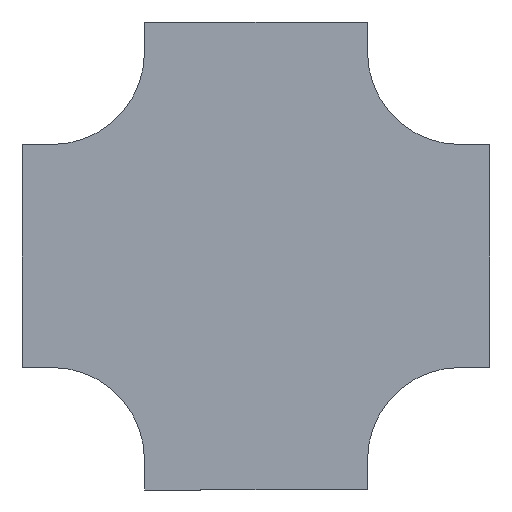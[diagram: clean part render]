
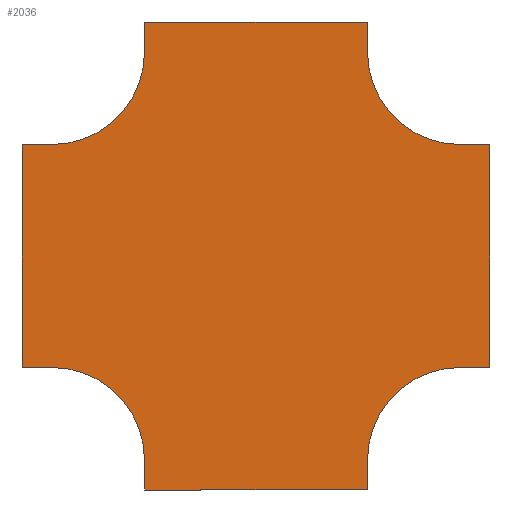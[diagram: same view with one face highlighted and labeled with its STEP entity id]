
A CAD part, front view. The second image highlights one B-rep face of the part: STEP entity #2036.
In plain terms, the highlighted planar face has unit normal (0, -1, 0).
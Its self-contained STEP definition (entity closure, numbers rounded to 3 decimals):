
#6 = DIRECTION ( 'NONE',  ( -1., 0., 0. ) ) ;
#7 = VERTEX_POINT ( 'NONE', #1434 ) ;
#14 = CARTESIAN_POINT ( 'NONE',  ( 0., 0., -125. ) ) ;
#48 = EDGE_CURVE ( 'NONE', #7, #259, #1008, .T. ) ;
#64 = VECTOR ( 'NONE', #6, 1000. ) ;
#69 = DIRECTION ( 'NONE',  ( 0., 0., 1. ) ) ;
#80 = VECTOR ( 'NONE', #1283, 1000. ) ;
#103 = CARTESIAN_POINT ( 'NONE',  ( 40., 0., -125. ) ) ;
#108 = DIRECTION ( 'NONE',  ( 0., 0., -1. ) ) ;
#133 = CARTESIAN_POINT ( 'NONE',  ( 40., 0., -125. ) ) ;
#135 = VECTOR ( 'NONE', #1195, 1000. ) ;
#136 = DIRECTION ( 'NONE',  ( 0., 0., 1. ) ) ;
#215 = LINE ( 'NONE', #14, #2685 ) ;
#238 = ORIENTED_EDGE ( 'NONE', *, *, #1250, .F. ) ;
#249 = EDGE_CURVE ( 'NONE', #996, #1879, #256, .T. ) ;
#256 = LINE ( 'NONE', #719, #135 ) ;
#258 = CARTESIAN_POINT ( 'NONE',  ( -550., 0., -550. ) ) ;
#259 = VERTEX_POINT ( 'NONE', #705 ) ;
#309 = LINE ( 'NONE', #2324, #3265 ) ;
#328 = CARTESIAN_POINT ( 'NONE',  ( -125., 0., -590. ) ) ;
#383 = LINE ( 'NONE', #1393, #3167 ) ;
#439 = VECTOR ( 'NONE', #1981, 1000. ) ;
#468 = LINE ( 'NONE', #3234, #3000 ) ;
#490 = CIRCLE ( 'NONE', #3100, 125. ) ;
#582 = DIRECTION ( 'NONE',  ( 0., 0., -1. ) ) ;
#630 = VERTEX_POINT ( 'NONE', #944 ) ;
#705 = CARTESIAN_POINT ( 'NONE',  ( -550., 0., -125. ) ) ;
#719 = CARTESIAN_POINT ( 'NONE',  ( -425., 0., 40. ) ) ;
#728 = ORIENTED_EDGE ( 'NONE', *, *, #1884, .F. ) ;
#751 = AXIS2_PLACEMENT_3D ( 'NONE', #258, #1502, #1248 ) ;
#894 = EDGE_CURVE ( 'NONE', #1168, #630, #1676, .T. ) ;
#904 = DIRECTION ( 'NONE',  ( -1., 0., 0. ) ) ;
#910 = VERTEX_POINT ( 'NONE', #2331 ) ;
#944 = CARTESIAN_POINT ( 'NONE',  ( -125., 0., -550. ) ) ;
#949 = CARTESIAN_POINT ( 'NONE',  ( 40., 0., -425. ) ) ;
#953 = DIRECTION ( 'NONE',  ( -1., 0., 0. ) ) ;
#954 = VERTEX_POINT ( 'NONE', #3098 ) ;
#959 = CIRCLE ( 'NONE', #751, 125. ) ;
#996 = VERTEX_POINT ( 'NONE', #1834 ) ;
#1008 = LINE ( 'NONE', #1511, #80 ) ;
#1029 = ORIENTED_EDGE ( 'NONE', *, *, #1239, .F. ) ;
#1116 = VERTEX_POINT ( 'NONE', #2966 ) ;
#1124 = VERTEX_POINT ( 'NONE', #3213 ) ;
#1139 = ORIENTED_EDGE ( 'NONE', *, *, #2287, .F. ) ;
#1145 = LINE ( 'NONE', #103, #2300 ) ;
#1166 = ORIENTED_EDGE ( 'NONE', *, *, #2634, .F. ) ;
#1168 = VERTEX_POINT ( 'NONE', #3046 ) ;
#1175 = CIRCLE ( 'NONE', #2034, 125. ) ;
#1195 = DIRECTION ( 'NONE',  ( 0., 0., 1. ) ) ;
#1239 = EDGE_CURVE ( 'NONE', #1124, #2193, #959, .T. ) ;
#1248 = DIRECTION ( 'NONE',  ( 0., 0., -1. ) ) ;
#1250 = EDGE_CURVE ( 'NONE', #1636, #1168, #2272, .T. ) ;
#1283 = DIRECTION ( 'NONE',  ( 1., 0., 0. ) ) ;
#1286 = DIRECTION ( 'NONE',  ( 1., 0., 0. ) ) ;
#1309 = EDGE_CURVE ( 'NONE', #1116, #3261, #490, .T. ) ;
#1393 = CARTESIAN_POINT ( 'NONE',  ( -425., 0., -590. ) ) ;
#1434 = CARTESIAN_POINT ( 'NONE',  ( -590., 0., -125. ) ) ;
#1443 = LINE ( 'NONE', #2217, #2469 ) ;
#1501 = AXIS2_PLACEMENT_3D ( 'NONE', #2872, #2838, #2113 ) ;
#1502 = DIRECTION ( 'NONE',  ( 0., -1., 0. ) ) ;
#1511 = CARTESIAN_POINT ( 'NONE',  ( -550., 0., -125. ) ) ;
#1564 = ORIENTED_EDGE ( 'NONE', *, *, #48, .F. ) ;
#1604 = EDGE_CURVE ( 'NONE', #1879, #3065, #2219, .T. ) ;
#1624 = CARTESIAN_POINT ( 'NONE',  ( 0., 0., 0. ) ) ;
#1628 = DIRECTION ( 'NONE',  ( 0., 0., 1. ) ) ;
#1636 = VERTEX_POINT ( 'NONE', #949 ) ;
#1676 = CIRCLE ( 'NONE', #2106, 125. ) ;
#1689 = ORIENTED_EDGE ( 'NONE', *, *, #1309, .F. ) ;
#1819 = EDGE_CURVE ( 'NONE', #3190, #1636, #1145, .T. ) ;
#1834 = CARTESIAN_POINT ( 'NONE',  ( -425., 0., 0. ) ) ;
#1866 = CARTESIAN_POINT ( 'NONE',  ( 0., 0., -550. ) ) ;
#1873 = CARTESIAN_POINT ( 'NONE',  ( -125., 0., 40. ) ) ;
#1879 = VERTEX_POINT ( 'NONE', #1907 ) ;
#1884 = EDGE_CURVE ( 'NONE', #910, #1124, #2420, .T. ) ;
#1907 = CARTESIAN_POINT ( 'NONE',  ( -425., 0., 40. ) ) ;
#1981 = DIRECTION ( 'NONE',  ( 1., 0., 0. ) ) ;
#1986 = EDGE_CURVE ( 'NONE', #3065, #1116, #468, .T. ) ;
#1995 = EDGE_LOOP ( 'NONE', ( #2858, #3214, #1139, #1564, #2097, #2551, #1029, #728, #2800, #1166, #2565, #238, #2895, #2436, #1689, #3070 ) ) ;
#2003 = EDGE_CURVE ( 'NONE', #3261, #3190, #215, .T. ) ;
#2034 = AXIS2_PLACEMENT_3D ( 'NONE', #2337, #2861, #2577 ) ;
#2036 = ADVANCED_FACE ( 'NONE', ( #2297 ), #2808, .T. ) ;
#2097 = ORIENTED_EDGE ( 'NONE', *, *, #2282, .F. ) ;
#2106 = AXIS2_PLACEMENT_3D ( 'NONE', #1866, #2124, #1628 ) ;
#2113 = DIRECTION ( 'NONE',  ( 0., 0., -1. ) ) ;
#2124 = DIRECTION ( 'NONE',  ( 0., -1., 0. ) ) ;
#2133 = LINE ( 'NONE', #328, #2735 ) ;
#2193 = VERTEX_POINT ( 'NONE', #2721 ) ;
#2217 = CARTESIAN_POINT ( 'NONE',  ( -550., 0., -425. ) ) ;
#2219 = LINE ( 'NONE', #2522, #439 ) ;
#2272 = LINE ( 'NONE', #2291, #64 ) ;
#2281 = DIRECTION ( 'NONE',  ( 0., 0., -1. ) ) ;
#2282 = EDGE_CURVE ( 'NONE', #954, #7, #309, .T. ) ;
#2287 = EDGE_CURVE ( 'NONE', #259, #996, #1175, .T. ) ;
#2291 = CARTESIAN_POINT ( 'NONE',  ( 0., 0., -425. ) ) ;
#2297 = FACE_OUTER_BOUND ( 'NONE', #1995, .T. ) ;
#2300 = VECTOR ( 'NONE', #2707, 1000. ) ;
#2324 = CARTESIAN_POINT ( 'NONE',  ( -590., 0., -125. ) ) ;
#2331 = CARTESIAN_POINT ( 'NONE',  ( -425., 0., -590. ) ) ;
#2337 = CARTESIAN_POINT ( 'NONE',  ( -550., 0., 0. ) ) ;
#2420 = LINE ( 'NONE', #2452, #3262 ) ;
#2436 = ORIENTED_EDGE ( 'NONE', *, *, #2003, .F. ) ;
#2452 = CARTESIAN_POINT ( 'NONE',  ( -425., 0., -590. ) ) ;
#2469 = VECTOR ( 'NONE', #904, 1000. ) ;
#2490 = EDGE_CURVE ( 'NONE', #3233, #910, #383, .T. ) ;
#2522 = CARTESIAN_POINT ( 'NONE',  ( -425., 0., 40. ) ) ;
#2551 = ORIENTED_EDGE ( 'NONE', *, *, #2734, .F. ) ;
#2565 = ORIENTED_EDGE ( 'NONE', *, *, #894, .F. ) ;
#2577 = DIRECTION ( 'NONE',  ( 0., 0., 1. ) ) ;
#2634 = EDGE_CURVE ( 'NONE', #630, #3233, #2133, .T. ) ;
#2649 = DIRECTION ( 'NONE',  ( 0., -1., 0. ) ) ;
#2685 = VECTOR ( 'NONE', #1286, 1000. ) ;
#2707 = DIRECTION ( 'NONE',  ( 0., 0., -1. ) ) ;
#2721 = CARTESIAN_POINT ( 'NONE',  ( -550., 0., -425. ) ) ;
#2734 = EDGE_CURVE ( 'NONE', #2193, #954, #1443, .T. ) ;
#2735 = VECTOR ( 'NONE', #108, 1000. ) ;
#2800 = ORIENTED_EDGE ( 'NONE', *, *, #2490, .F. ) ;
#2808 = PLANE ( 'NONE',  #1501 ) ;
#2833 = CARTESIAN_POINT ( 'NONE',  ( 0., 0., -125. ) ) ;
#2838 = DIRECTION ( 'NONE',  ( 0., -1., 0. ) ) ;
#2858 = ORIENTED_EDGE ( 'NONE', *, *, #1604, .F. ) ;
#2861 = DIRECTION ( 'NONE',  ( 0., -1., 0. ) ) ;
#2872 = CARTESIAN_POINT ( 'NONE',  ( 0., 0., 0. ) ) ;
#2895 = ORIENTED_EDGE ( 'NONE', *, *, #1819, .F. ) ;
#2966 = CARTESIAN_POINT ( 'NONE',  ( -125., 0., 0. ) ) ;
#3000 = VECTOR ( 'NONE', #2281, 1000. ) ;
#3046 = CARTESIAN_POINT ( 'NONE',  ( 0., 0., -425. ) ) ;
#3049 = CARTESIAN_POINT ( 'NONE',  ( -125., 0., -590. ) ) ;
#3065 = VERTEX_POINT ( 'NONE', #1873 ) ;
#3070 = ORIENTED_EDGE ( 'NONE', *, *, #1986, .F. ) ;
#3098 = CARTESIAN_POINT ( 'NONE',  ( -590., 0., -425. ) ) ;
#3100 = AXIS2_PLACEMENT_3D ( 'NONE', #1624, #2649, #582 ) ;
#3167 = VECTOR ( 'NONE', #953, 1000. ) ;
#3190 = VERTEX_POINT ( 'NONE', #133 ) ;
#3213 = CARTESIAN_POINT ( 'NONE',  ( -425., 0., -550. ) ) ;
#3214 = ORIENTED_EDGE ( 'NONE', *, *, #249, .F. ) ;
#3233 = VERTEX_POINT ( 'NONE', #3049 ) ;
#3234 = CARTESIAN_POINT ( 'NONE',  ( -125., 0., 40. ) ) ;
#3261 = VERTEX_POINT ( 'NONE', #2833 ) ;
#3262 = VECTOR ( 'NONE', #136, 1000. ) ;
#3265 = VECTOR ( 'NONE', #69, 1000. ) ;
